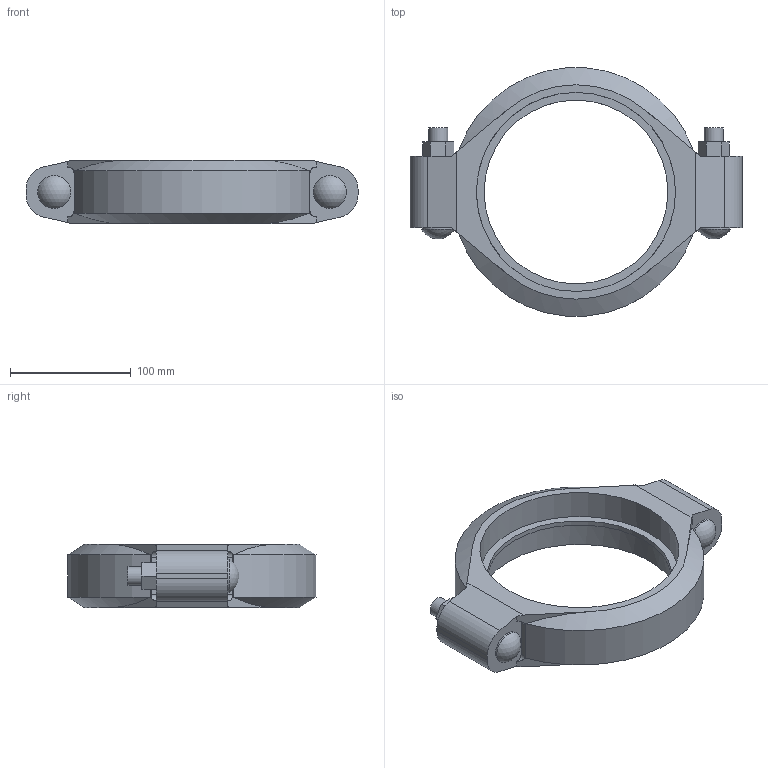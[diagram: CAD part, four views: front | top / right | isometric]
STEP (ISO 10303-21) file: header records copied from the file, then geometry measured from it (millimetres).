
FILE_DESCRIPTION(/* description */ ('VIC COUPLING STYLE 07 RIGID','CAx-IF Rec.Pracs.---Representation and Presentation of Product Manufacturing Information (PMI)---4.0---2014-10-13'),/* implementation_level */ '2;1');
FILE_NAME(/* name */ 'C:\Users\kkamble\Desktop\KIRAN\2022\Updated Couplings\007\Victaulic_IPS_Coupling Rigid_Style 07 (OGS)\Victaulic_IPS_Coupling Rigid_Style 07 (OGS)_06.0 (165.1) (150).stp',/* time_stamp */ '2022-03-25T09:56:53+05:00',/* author */ ('jheald'),/* organization */ ('Victaulic'),/* preprocessor_version */ 'ST-DEVELOPER v17.2',/* originating_system */ 'Autodesk Inventor 2019',/* authorisation */ '');
FILE_SCHEMA (('AP242_MANAGED_MODEL_BASED_3D_ENGINEERING_MIM_LF { 1 0 10303 442 1 1 4 }'));
Length unit declared in the file: inch
Products named in the file (1): 07-06.0 (165.1)
Bounding box: 275.34 x 205.81 x 52.58 mm (x, y, z)
Volume: 770536.1 mm3; surface area: 115727.2 mm2
Topology: 1 solids, 3 shells, 87 faces, 239 edges, 162 vertices
Faces by surface type: plane 54, cylinder 27, cone 4, sphere 2
Full cylindrical faces by diameter (mm): 15.875 x4, 27.381 x2, 152.4 x1, 165.1 x2
Entity records: 3036 total; most frequent: CARTESIAN_POINT 522, DIRECTION 507, ORIENTED_EDGE 478, EDGE_CURVE 239, AXIS2_PLACEMENT_3D 175, VERTEX_POINT 162, LINE 157, VECTOR 157
